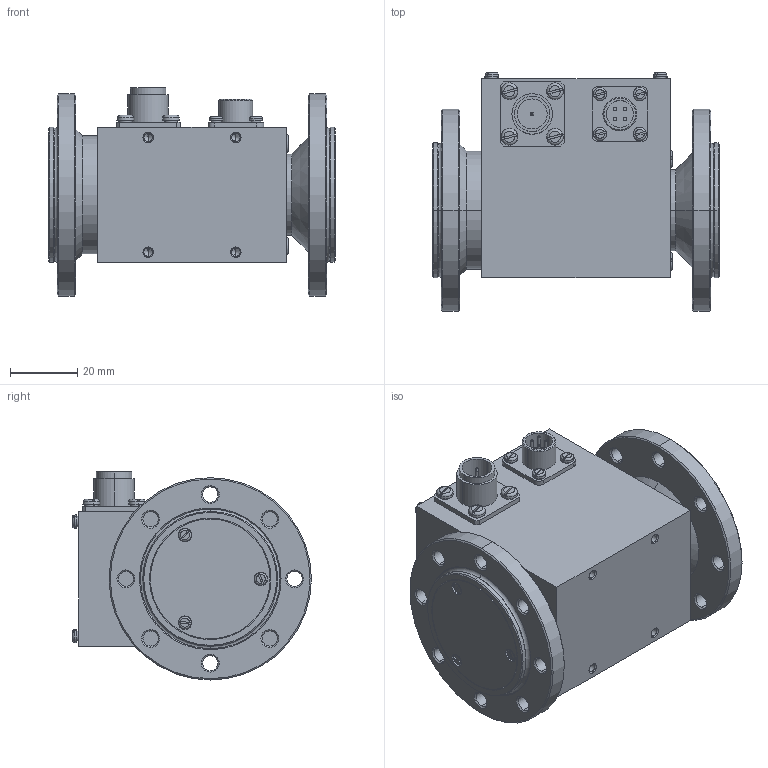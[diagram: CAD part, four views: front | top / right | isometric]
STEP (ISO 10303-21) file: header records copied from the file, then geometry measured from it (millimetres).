
FILE_DESCRIPTION (( 'STEP AP214' ), '1' );
FILE_NAME ('M20C-30.STEP', '2019-03-14T07:52:54', ( 'Alex509' ), ( '' ), 'SwSTEP 2.0', 'SolidWorks 2017', '' );
FILE_SCHEMA (( 'AUTOMOTIVE_DESIGN' ));
Length unit declared in the file: millimetre
Products named in the file (1): M20C-30
Bounding box: 85 x 70.8 x 61.7 mm (x, y, z)
Volume: 141570.8 mm3; surface area: 61188.7 mm2
Topology: 4 solids, 6 shells, 935 faces, 2482 edges, 1562 vertices
Faces by surface type: cylinder 289, plane 282, cone 200, torus 124, sphere 40
Entity records: 40869 total; most frequent: CARTESIAN_POINT 7524, DIRECTION 5029, ORIENTED_EDGE 4780, EDGE_CURVE 2390, AXIS2_PLACEMENT_3D 2171, VERTEX_POINT 1522, CIRCLE 1235, EDGE_LOOP 1108
